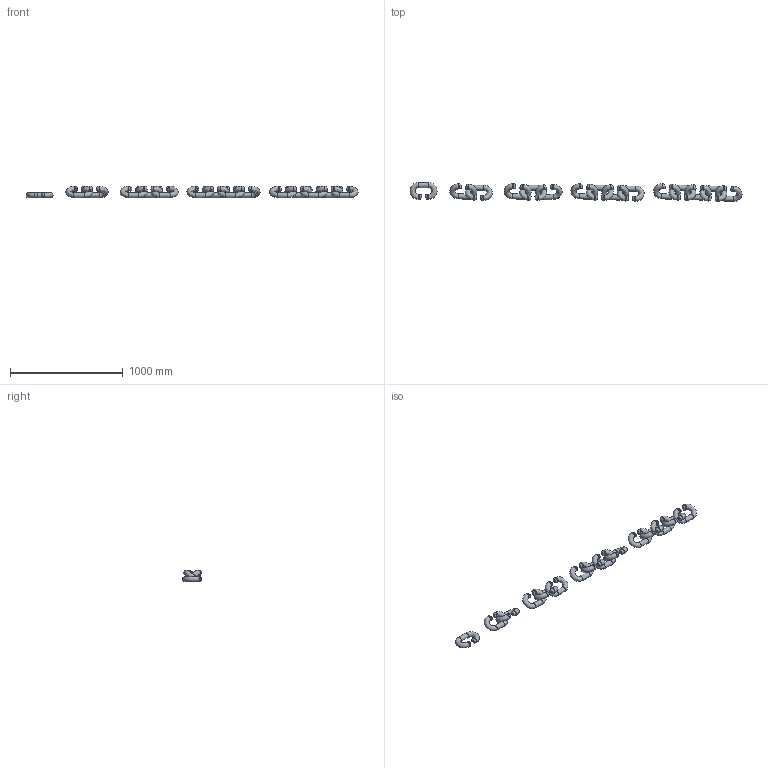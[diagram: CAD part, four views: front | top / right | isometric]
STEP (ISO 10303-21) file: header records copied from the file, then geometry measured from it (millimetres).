
FILE_DESCRIPTION(/* description */ (''),/* implementation_level */ '2;1');
FILE_NAME(/* name */ 'SkLO_SC002,SC003,SC004,SC005_GlassLInk',/* time_stamp */ '2024-08-08T15:57:17+02:00',/* author */ (''),/* organization */ (''),/* preprocessor_version */ 'ST-DEVELOPER v16.5',/* originating_system */ 'Rhino 7.34',/* authorisation */ '');
FILE_SCHEMA (('CONFIG_CONTROL_DESIGN'));
Length unit declared in the file: millimetre
Products named in the file (1): Document
Bounding box: 2950.78 x 167.15 x 102.8 mm (x, y, z)
Volume: 11073394.3 mm3; surface area: 1017370.5 mm2
Topology: 15 solids, 16 shells, 136 faces, 256 edges, 151 vertices
Faces by surface type: bspline 60, cylinder 45, plane 31
Full cylindrical faces by diameter (mm): 45 x45
Entity records: 31379 total; most frequent: CARTESIAN_POINT 29547, ORIENTED_EDGE 511, EDGE_CURVE 256, VERTEX_POINT 151, ADVANCED_FACE 136, FACE_OUTER_BOUND 136, EDGE_LOOP 136, B_SPLINE_CURVE_WITH_KNOTS 121
